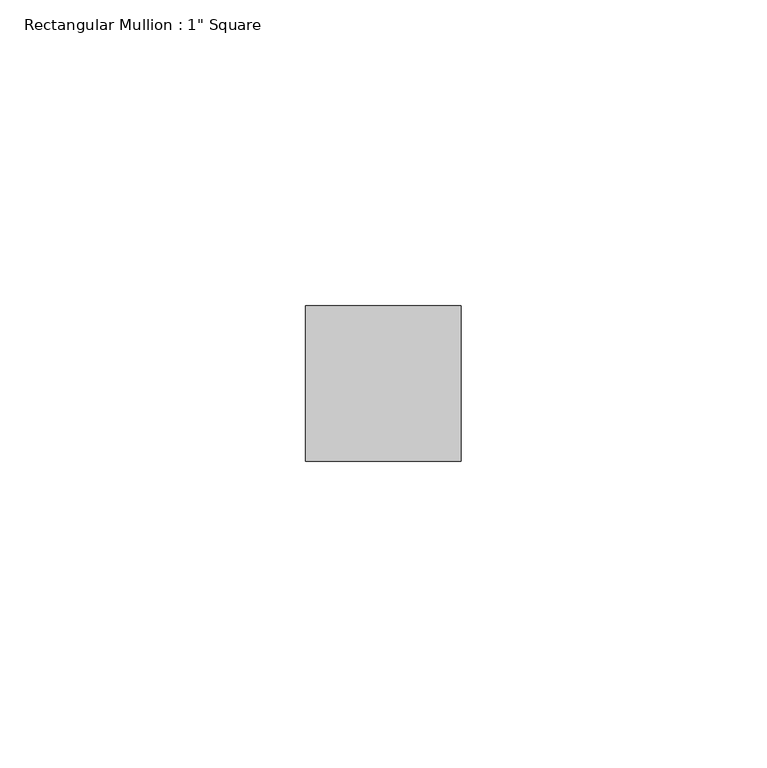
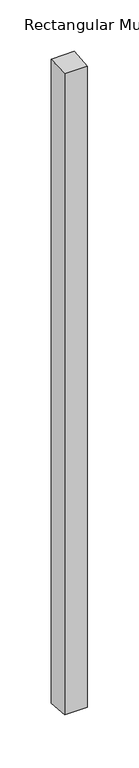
"""IFC4 building model written with IfcOpenShell, lengths in millimetres: member geometry."""

from ifc_helpers import new_model, si_unit, origin, place, context, project, spatial, faceted_brep, source, transform, mapped, element, save


def member_76afc974(model_context):
    return source(origin(), model_context, "Body", "Brep", [
        faceted_brep([(-25.4, 12.7, 0.8008489), (0.0, 12.7, 1.0544316), (0.0, 12.7, -763.0544316), (-25.4, 12.7, -762.8008489), (-25.4, -12.7, -1.3080143), (-25.4, -12.7, -760.6919857), (0.0, -12.7, -1.0544316), (0.0, -12.7, -760.9455684)], [[[0, 1, 2, 3]], [[4, 0, 3, 5]], [[6, 4, 5, 7]], [[1, 6, 7, 2]], [[1, 0, 4, 6]], [[2, 7, 5, 3]]]),
    ])


if __name__ == "__main__":
    model = new_model("IFC4")
    model_context = context("Model", 3, world=origin())
    ifc_project = project(units=[si_unit("LENGTHUNIT", "METRE", prefix="MILLI")], contexts=[model_context])
    site = spatial("IfcSite", under=ifc_project)
    building = spatial("IfcBuilding", under=site)
    placement = place(None, origin())
    member_shape = member_76afc974(model_context)
    element("IfcMember", 1, ObjectType="Rectangular Mullion : 1\" Square", at=placement, inside=building, context=model_context, shape_type="MappedRepresentation", body=[
        mapped(member_shape, transform((0.0, 0.0, 0.0), x_axis=(1.0, 0.0, 0.0), y_axis=(0.0, 1.0, 0.0), z_axis=(0.0, 0.0, 1.0))),
    ])
    save(model, "model.ifc")
